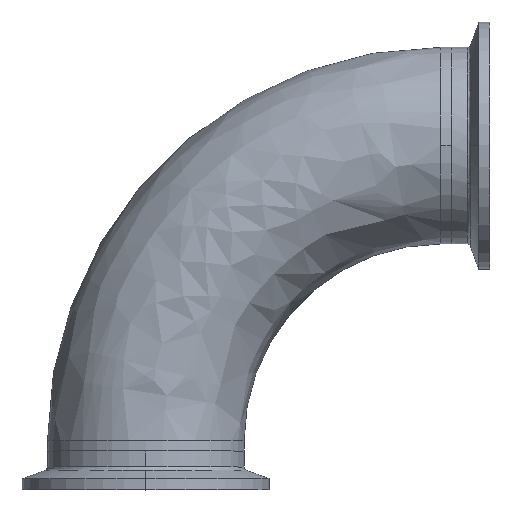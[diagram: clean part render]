
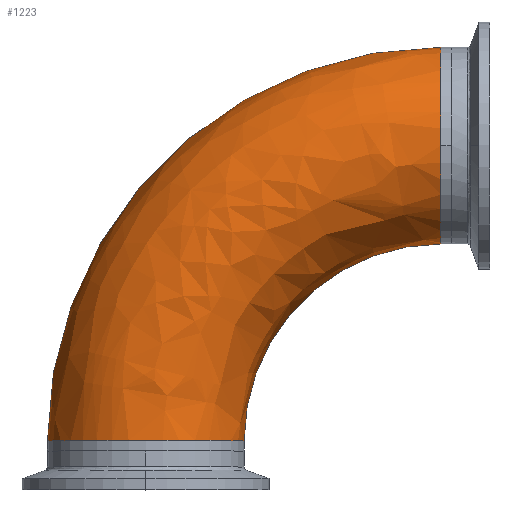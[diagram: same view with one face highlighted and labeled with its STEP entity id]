
A CAD part, top view. The second image highlights one B-rep face of the part: STEP entity #1223.
In plain terms, the highlighted free-form (B-spline) face has degree [3, 3] with [4, 4] control points.
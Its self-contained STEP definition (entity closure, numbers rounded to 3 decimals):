
#11 = CARTESIAN_POINT ( 'NONE',  ( 16.684, 104.3, 0. ) ) ;
#56 = DIRECTION ( 'NONE',  ( 0., 0., -1. ) ) ;
#83 = CARTESIAN_POINT ( 'NONE',  ( -25.4, 2.7, 0. ) ) ;
#197 = EDGE_CURVE ( 'NONE', #2596, #559, #1943, .T. ) ;
#219 = CIRCLE ( 'NONE', #2460, 25.4 ) ;
#255 = ORIENTED_EDGE ( 'NONE', *, *, #2748, .T. ) ;
#276 = EDGE_LOOP ( 'NONE', ( #2547, #255, #833, #1121, #2979 ) ) ;
#398 = EDGE_CURVE ( 'NONE', #2984, #433, #803, .T. ) ;
#433 = VERTEX_POINT ( 'NONE', #1024 ) ;
#501 = DIRECTION ( 'NONE',  ( 0., 1., 0. ) ) ;
#541 = CARTESIAN_POINT ( 'NONE',  ( -25.4, 62.216, 0. ) ) ;
#559 = VERTEX_POINT ( 'NONE', #3317 ) ;
#620 = CARTESIAN_POINT ( 'NONE',  ( 76.2, 78.9, 0. ) ) ;
#703 = DIRECTION ( 'NONE',  ( -1., 0., 0. ) ) ;
#803 = CIRCLE ( 'NONE', #3182, 25.4 ) ;
#833 = ORIENTED_EDGE ( 'NONE', *, *, #398, .T. ) ;
#861 = CARTESIAN_POINT ( 'NONE',  ( 76.2, 104.3, 50.8 ) ) ;
#871 = DIRECTION ( 'NONE',  ( 0., 1., 0. ) ) ;
#892 = CARTESIAN_POINT ( 'NONE',  ( 76.2, 53.5, 0. ) ) ;
#934 = CARTESIAN_POINT ( 'NONE',  ( 25.4, 2.7, 0. ) ) ;
#997 = CARTESIAN_POINT ( 'NONE',  ( 25.4, 32.458, 50.8 ) ) ;
#1006 =( BOUNDED_SURFACE ( )  B_SPLINE_SURFACE ( 3, 3, ( 
 ( #83, #541, #11, #1660 ),
 ( #2519, #2189, #2012, #861 ),
 ( #1122, #997, #2540, #2905 ),
 ( #2839, #2215, #1932, #1680 ) ),
 .UNSPECIFIED., .F., .F., .T. ) 
 B_SPLINE_SURFACE_WITH_KNOTS ( ( 4, 4 ),
 ( 4, 4 ),
 ( 0., 1. ),
 ( 0., 1. ),
 .UNSPECIFIED. ) 
 GEOMETRIC_REPRESENTATION_ITEM ( )  RATIONAL_B_SPLINE_SURFACE ( (
 ( 1., 0.805, 0.805, 1.),
 ( 0.333, 0.268, 0.268, 0.333),
 ( 0.333, 0.268, 0.268, 0.333),
 ( 1., 0.805, 0.805, 1.) ) ) 
 REPRESENTATION_ITEM ( '' )  SURFACE ( )  );
#1024 = CARTESIAN_POINT ( 'NONE',  ( 76.2, 78.9, 25.4 ) ) ;
#1039 = CARTESIAN_POINT ( 'NONE',  ( -25.4, 2.7, 0. ) ) ;
#1121 = ORIENTED_EDGE ( 'NONE', *, *, #3109, .T. ) ;
#1122 = CARTESIAN_POINT ( 'NONE',  ( 25.4, 2.7, 50.8 ) ) ;
#1223 = ADVANCED_FACE ( 'NONE', ( #2316 ), #1006, .T. ) ;
#1452 = AXIS2_PLACEMENT_3D ( 'NONE', #1642, #56, #1928 ) ;
#1642 = CARTESIAN_POINT ( 'NONE',  ( 76.2, 2.7, 0. ) ) ;
#1660 = CARTESIAN_POINT ( 'NONE',  ( 76.2, 104.3, 0. ) ) ;
#1680 = CARTESIAN_POINT ( 'NONE',  ( 76.2, 53.5, 0. ) ) ;
#1762 = CARTESIAN_POINT ( 'NONE',  ( 76.2, 78.9, 0. ) ) ;
#1928 = DIRECTION ( 'NONE',  ( -1., 0., 0. ) ) ;
#1932 = CARTESIAN_POINT ( 'NONE',  ( 46.442, 53.5, 0. ) ) ;
#1943 = CIRCLE ( 'NONE', #3343, 101.6 ) ;
#1946 = CIRCLE ( 'NONE', #1452, 50.8 ) ;
#1980 = VERTEX_POINT ( 'NONE', #934 ) ;
#2012 = CARTESIAN_POINT ( 'NONE',  ( 16.684, 104.3, 50.8 ) ) ;
#2022 = DIRECTION ( 'NONE',  ( -1., 0., 0. ) ) ;
#2061 = CARTESIAN_POINT ( 'NONE',  ( 76.2, 2.7, 0. ) ) ;
#2114 = CARTESIAN_POINT ( 'NONE',  ( 0., 2.7, 0. ) ) ;
#2189 = CARTESIAN_POINT ( 'NONE',  ( -25.4, 62.216, 50.8 ) ) ;
#2215 = CARTESIAN_POINT ( 'NONE',  ( 25.4, 32.458, 0. ) ) ;
#2316 = FACE_OUTER_BOUND ( 'NONE', #276, .T. ) ;
#2399 = DIRECTION ( 'NONE',  ( -1., 0., 0. ) ) ;
#2434 = DIRECTION ( 'NONE',  ( 0., 0., -1. ) ) ;
#2460 = AXIS2_PLACEMENT_3D ( 'NONE', #2114, #501, #2399 ) ;
#2519 = CARTESIAN_POINT ( 'NONE',  ( -25.4, 2.7, 50.8 ) ) ;
#2524 = DIRECTION ( 'NONE',  ( -1., 0., 0. ) ) ;
#2540 = CARTESIAN_POINT ( 'NONE',  ( 46.442, 53.5, 50.8 ) ) ;
#2547 = ORIENTED_EDGE ( 'NONE', *, *, #2561, .T. ) ;
#2561 = EDGE_CURVE ( 'NONE', #2596, #1980, #219, .T. ) ;
#2596 = VERTEX_POINT ( 'NONE', #1039 ) ;
#2748 = EDGE_CURVE ( 'NONE', #1980, #2984, #1946, .T. ) ;
#2839 = CARTESIAN_POINT ( 'NONE',  ( 25.4, 2.7, 0. ) ) ;
#2905 = CARTESIAN_POINT ( 'NONE',  ( 76.2, 53.5, 50.8 ) ) ;
#2932 = CIRCLE ( 'NONE', #3238, 25.4 ) ;
#2979 = ORIENTED_EDGE ( 'NONE', *, *, #197, .F. ) ;
#2984 = VERTEX_POINT ( 'NONE', #892 ) ;
#3109 = EDGE_CURVE ( 'NONE', #433, #559, #2932, .T. ) ;
#3182 = AXIS2_PLACEMENT_3D ( 'NONE', #1762, #703, #3191 ) ;
#3191 = DIRECTION ( 'NONE',  ( 0., 1., 0. ) ) ;
#3238 = AXIS2_PLACEMENT_3D ( 'NONE', #620, #2524, #871 ) ;
#3317 = CARTESIAN_POINT ( 'NONE',  ( 76.2, 104.3, 0. ) ) ;
#3343 = AXIS2_PLACEMENT_3D ( 'NONE', #2061, #2434, #2022 ) ;
